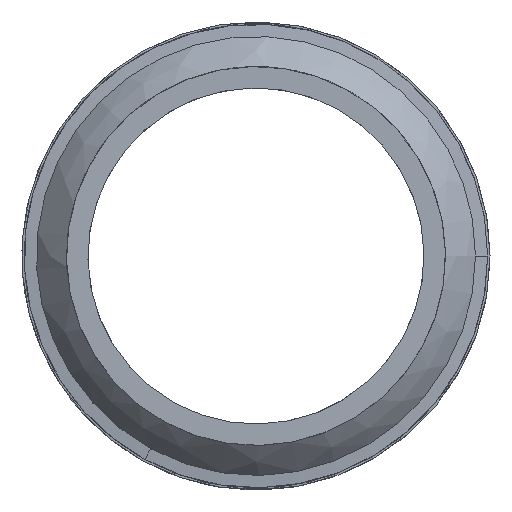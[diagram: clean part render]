
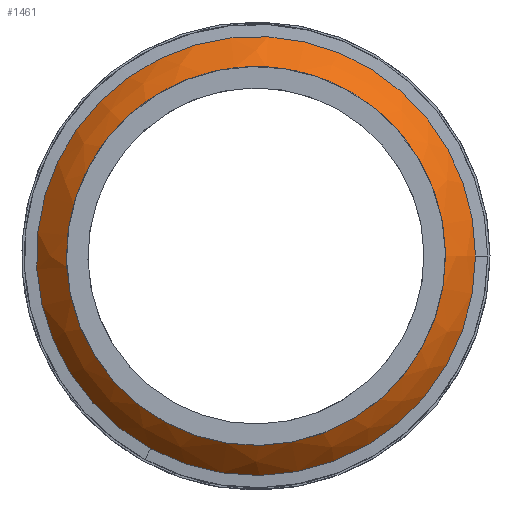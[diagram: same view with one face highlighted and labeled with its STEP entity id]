
A CAD part, left-side view. The second image highlights one B-rep face of the part: STEP entity #1461.
In plain terms, the highlighted free-form (B-spline) face has degree [2, 2] with [3, 9] control points.
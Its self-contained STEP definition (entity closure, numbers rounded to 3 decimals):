
#198=(
BOUNDED_CURVE()
B_SPLINE_CURVE(2,(#2080,#2081,#2082),.UNSPECIFIED.,.F.,.F.)
B_SPLINE_CURVE_WITH_KNOTS((3,3),(0.612,0.942),
 .UNSPECIFIED.)
CURVE()
GEOMETRIC_REPRESENTATION_ITEM()
RATIONAL_B_SPLINE_CURVE((1.,0.986,1.))
REPRESENTATION_ITEM('')
);
#199=(
BOUNDED_SURFACE()
B_SPLINE_SURFACE(2,2,((#2050,#2051,#2052,#2053,#2054,#2055,#2056,#2057,
#2058),(#2059,#2060,#2061,#2062,#2063,#2064,#2065,#2066,#2067),(#2068,#2069,
#2070,#2071,#2072,#2073,#2074,#2075,#2076)),.UNSPECIFIED.,.F.,.T.,.F.)
B_SPLINE_SURFACE_WITH_KNOTS((3,3),(3,2,2,2,3),(-0.942,-0.612),
(-3.142,-1.571,0.,1.571,3.142),
 .UNSPECIFIED.)
GEOMETRIC_REPRESENTATION_ITEM()
RATIONAL_B_SPLINE_SURFACE(((1.,0.707,1.,0.707,1.,
0.707,1.,0.707,1.),(0.986,0.698,
0.986,0.698,0.986,0.698,
0.986,0.698,0.986),(1.,0.707,
1.,0.707,1.,0.707,1.,0.707,1.)))
REPRESENTATION_ITEM('')
SURFACE()
);
#274=FACE_OUTER_BOUND('',#360,.T.);
#360=EDGE_LOOP('',(#921,#922,#923,#924,#925,#926));
#469=CIRCLE('',#1549,55.2);
#470=CIRCLE('',#1550,55.2);
#472=CIRCLE('',#1553,63.95);
#473=CIRCLE('',#1554,63.95);
#537=VERTEX_POINT('',#2043);
#538=VERTEX_POINT('',#2044);
#540=VERTEX_POINT('',#2077);
#541=VERTEX_POINT('',#2078);
#703=EDGE_CURVE('',#537,#538,#469,.T.);
#704=EDGE_CURVE('',#538,#537,#470,.T.);
#706=EDGE_CURVE('',#540,#541,#472,.T.);
#707=EDGE_CURVE('',#540,#538,#198,.T.);
#708=EDGE_CURVE('',#541,#540,#473,.T.);
#921=ORIENTED_EDGE('',*,*,#706,.F.);
#922=ORIENTED_EDGE('',*,*,#707,.T.);
#923=ORIENTED_EDGE('',*,*,#703,.F.);
#924=ORIENTED_EDGE('',*,*,#704,.F.);
#925=ORIENTED_EDGE('',*,*,#707,.F.);
#926=ORIENTED_EDGE('',*,*,#708,.F.);
#1461=ADVANCED_FACE('',(#274),#199,.F.);
#1549=AXIS2_PLACEMENT_3D('',#2045,#1710,#1711);
#1550=AXIS2_PLACEMENT_3D('',#2046,#1712,#1713);
#1553=AXIS2_PLACEMENT_3D('',#2079,#1718,#1719);
#1554=AXIS2_PLACEMENT_3D('',#2083,#1720,#1721);
#1710=DIRECTION('center_axis',(-1.,0.,0.));
#1711=DIRECTION('ref_axis',(0.,-1.,0.));
#1712=DIRECTION('center_axis',(-1.,0.,0.));
#1713=DIRECTION('ref_axis',(0.,-1.,0.));
#1718=DIRECTION('center_axis',(1.,0.,0.));
#1719=DIRECTION('ref_axis',(0.,-1.,0.));
#1720=DIRECTION('center_axis',(1.,0.,0.));
#1721=DIRECTION('ref_axis',(0.,0.479,0.878));
#2043=CARTESIAN_POINT('',(33.1,26.464,-48.443));
#2044=CARTESIAN_POINT('',(33.1,-55.2,0.));
#2045=CARTESIAN_POINT('Origin',(33.1,0.,0.));
#2046=CARTESIAN_POINT('Origin',(33.1,0.,0.));
#2050=CARTESIAN_POINT('Ctrl Pts',(33.1,-55.2,0.));
#2051=CARTESIAN_POINT('Ctrl Pts',(33.1,-55.2,-55.2));
#2052=CARTESIAN_POINT('Ctrl Pts',(33.1,0.,
-55.2));
#2053=CARTESIAN_POINT('Ctrl Pts',(33.1,55.2,-55.2));
#2054=CARTESIAN_POINT('Ctrl Pts',(33.1,55.2,0.));
#2055=CARTESIAN_POINT('Ctrl Pts',(33.1,55.2,55.2));
#2056=CARTESIAN_POINT('Ctrl Pts',(33.1,0.,
55.2));
#2057=CARTESIAN_POINT('Ctrl Pts',(33.1,-55.2,55.2));
#2058=CARTESIAN_POINT('Ctrl Pts',(33.1,-55.2,0.));
#2059=CARTESIAN_POINT('Ctrl Pts',(36.822,-60.316,0.));
#2060=CARTESIAN_POINT('Ctrl Pts',(36.822,-60.316,-60.316));
#2061=CARTESIAN_POINT('Ctrl Pts',(36.822,0.,
-60.316));
#2062=CARTESIAN_POINT('Ctrl Pts',(36.822,60.316,-60.316));
#2063=CARTESIAN_POINT('Ctrl Pts',(36.822,60.316,0.));
#2064=CARTESIAN_POINT('Ctrl Pts',(36.822,60.316,60.316));
#2065=CARTESIAN_POINT('Ctrl Pts',(36.822,0.,
60.316));
#2066=CARTESIAN_POINT('Ctrl Pts',(36.822,-60.316,60.316));
#2067=CARTESIAN_POINT('Ctrl Pts',(36.822,-60.316,0.));
#2068=CARTESIAN_POINT('Ctrl Pts',(42.,-63.95,0.));
#2069=CARTESIAN_POINT('Ctrl Pts',(42.,-63.95,-63.95));
#2070=CARTESIAN_POINT('Ctrl Pts',(42.,0.,
-63.95));
#2071=CARTESIAN_POINT('Ctrl Pts',(42.,63.95,-63.95));
#2072=CARTESIAN_POINT('Ctrl Pts',(42.,63.95,0.));
#2073=CARTESIAN_POINT('Ctrl Pts',(42.,63.95,63.95));
#2074=CARTESIAN_POINT('Ctrl Pts',(42.,0.,
63.95));
#2075=CARTESIAN_POINT('Ctrl Pts',(42.,-63.95,63.95));
#2076=CARTESIAN_POINT('Ctrl Pts',(42.,-63.95,0.));
#2077=CARTESIAN_POINT('',(42.,-63.95,0.));
#2078=CARTESIAN_POINT('',(42.,30.659,-56.121));
#2079=CARTESIAN_POINT('Origin',(42.,0.,0.));
#2080=CARTESIAN_POINT('Ctrl Pts',(42.,-63.95,0.));
#2081=CARTESIAN_POINT('Ctrl Pts',(36.822,-60.316,0.));
#2082=CARTESIAN_POINT('Ctrl Pts',(33.1,-55.2,0.));
#2083=CARTESIAN_POINT('Origin',(42.,0.,0.));
